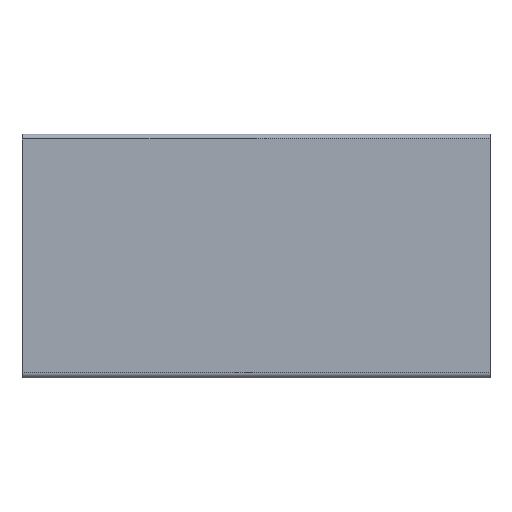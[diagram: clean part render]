
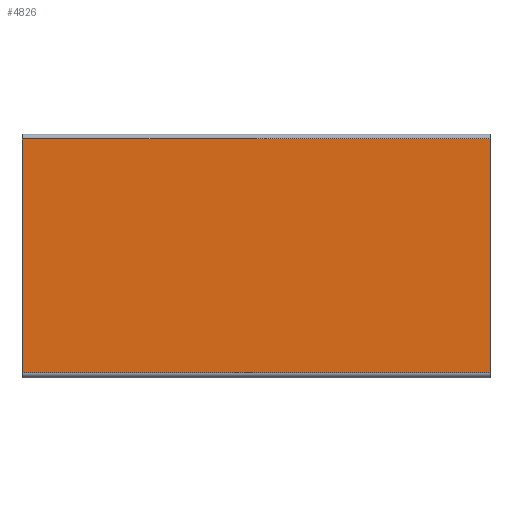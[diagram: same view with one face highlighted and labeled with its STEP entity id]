
A CAD part, front view. The second image highlights one B-rep face of the part: STEP entity #4826.
In plain terms, the highlighted planar face has unit normal (0, -1, 0).
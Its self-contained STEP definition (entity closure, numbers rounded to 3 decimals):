
#148 = DIRECTION ( 'NONE',  ( 0., 0., -1. ) ) ;
#178 = EDGE_CURVE ( 'NONE', #5776, #5247, #2591, .T. ) ;
#349 = CARTESIAN_POINT ( 'NONE',  ( 120., -64.5, -60. ) ) ;
#458 = EDGE_CURVE ( 'NONE', #5047, #5247, #4551, .T. ) ;
#1595 = CARTESIAN_POINT ( 'NONE',  ( -120., -64.5, -60. ) ) ;
#1647 = DIRECTION ( 'NONE',  ( 0., -1., 0. ) ) ;
#1674 = CARTESIAN_POINT ( 'NONE',  ( -120., -64.5, -60. ) ) ;
#1727 = AXIS2_PLACEMENT_3D ( 'NONE', #6204, #1647, #148 ) ;
#1836 = CARTESIAN_POINT ( 'NONE',  ( 120., -64.5, 60. ) ) ;
#2138 = CARTESIAN_POINT ( 'NONE',  ( -120., -64.5, 60. ) ) ;
#2164 = LINE ( 'NONE', #1674, #3940 ) ;
#2305 = VECTOR ( 'NONE', #2996, 1000. ) ;
#2591 = LINE ( 'NONE', #4065, #5062 ) ;
#2715 = CARTESIAN_POINT ( 'NONE',  ( 120., -64.5, -61. ) ) ;
#2996 = DIRECTION ( 'NONE',  ( 0., 0., 1. ) ) ;
#3686 = DIRECTION ( 'NONE',  ( 1., 0., 0. ) ) ;
#3758 = ORIENTED_EDGE ( 'NONE', *, *, #4869, .T. ) ;
#3863 = DIRECTION ( 'NONE',  ( 0., 0., -1. ) ) ;
#3907 = VERTEX_POINT ( 'NONE', #349 ) ;
#3940 = VECTOR ( 'NONE', #3686, 1000. ) ;
#4065 = CARTESIAN_POINT ( 'NONE',  ( 120., -64.5, 60. ) ) ;
#4066 = ORIENTED_EDGE ( 'NONE', *, *, #458, .F. ) ;
#4144 = FACE_OUTER_BOUND ( 'NONE', #5449, .T. ) ;
#4551 = LINE ( 'NONE', #5981, #2305 ) ;
#4620 = DIRECTION ( 'NONE',  ( -1., 0., 0. ) ) ;
#4826 = ADVANCED_FACE ( 'NONE', ( #4144 ), #6175, .T. ) ;
#4869 = EDGE_CURVE ( 'NONE', #5047, #3907, #2164, .T. ) ;
#5047 = VERTEX_POINT ( 'NONE', #1595 ) ;
#5062 = VECTOR ( 'NONE', #4620, 1000. ) ;
#5067 = ORIENTED_EDGE ( 'NONE', *, *, #178, .T. ) ;
#5247 = VERTEX_POINT ( 'NONE', #2138 ) ;
#5251 = LINE ( 'NONE', #2715, #5314 ) ;
#5301 = EDGE_CURVE ( 'NONE', #5776, #3907, #5251, .T. ) ;
#5314 = VECTOR ( 'NONE', #3863, 1000. ) ;
#5449 = EDGE_LOOP ( 'NONE', ( #6409, #5067, #4066, #3758 ) ) ;
#5776 = VERTEX_POINT ( 'NONE', #1836 ) ;
#5981 = CARTESIAN_POINT ( 'NONE',  ( -120., -64.5, -61. ) ) ;
#6175 = PLANE ( 'NONE',  #1727 ) ;
#6204 = CARTESIAN_POINT ( 'NONE',  ( 0., -64.5, 0. ) ) ;
#6409 = ORIENTED_EDGE ( 'NONE', *, *, #5301, .F. ) ;
